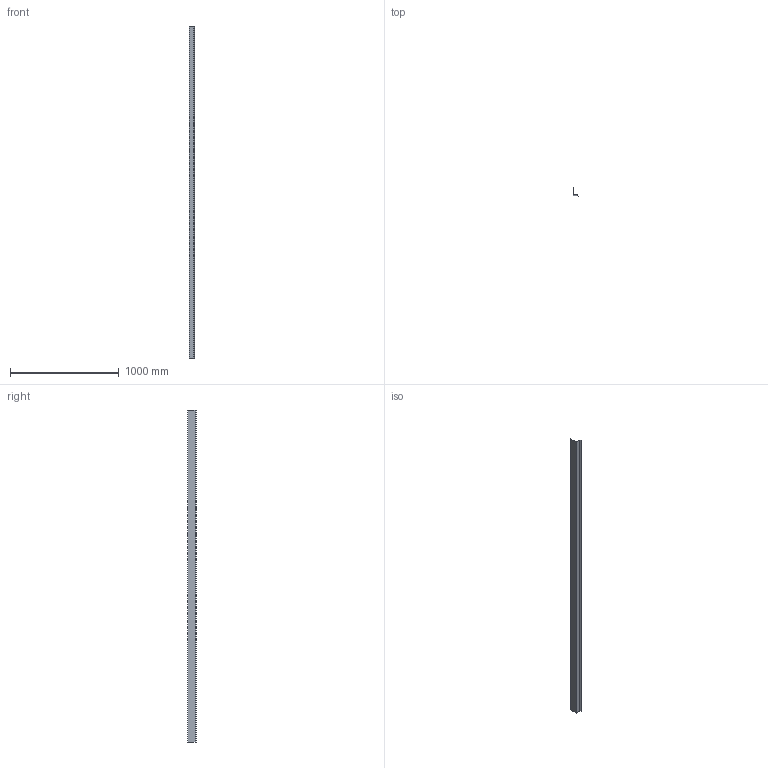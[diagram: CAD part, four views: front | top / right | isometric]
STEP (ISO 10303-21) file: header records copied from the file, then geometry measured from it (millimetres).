
FILE_DESCRIPTION(/* description */ (''),/* implementation_level */ '2;1');
FILE_NAME(/* name */ 'M53J.stp',/* time_stamp */ '2025-02-27T16:48:53-05:00',/* author */ ('samuel.gauthier'),/* organization */ (''),/* preprocessor_version */ 'ST-DEVELOPER v20',/* originating_system */ 'Autodesk Inventor 2025',/* authorisation */ '');
FILE_SCHEMA (('AUTOMOTIVE_DESIGN { 1 0 10303 214 3 1 1 }'));
Length unit declared in the file: inch
Products named in the file (1): M53J
Bounding box: 54 x 81.76 x 3048 mm (x, y, z)
Volume: 288087.6 mm3; surface area: 1137489 mm2
Topology: 1 solids, 1 shells, 22 faces, 60 edges, 40 vertices
Faces by surface type: plane 14, cylinder 8
Entity records: 745 total; most frequent: CARTESIAN_POINT 123, DIRECTION 122, ORIENTED_EDGE 120, EDGE_CURVE 60, LINE 44, VECTOR 44, VERTEX_POINT 40, AXIS2_PLACEMENT_3D 39
